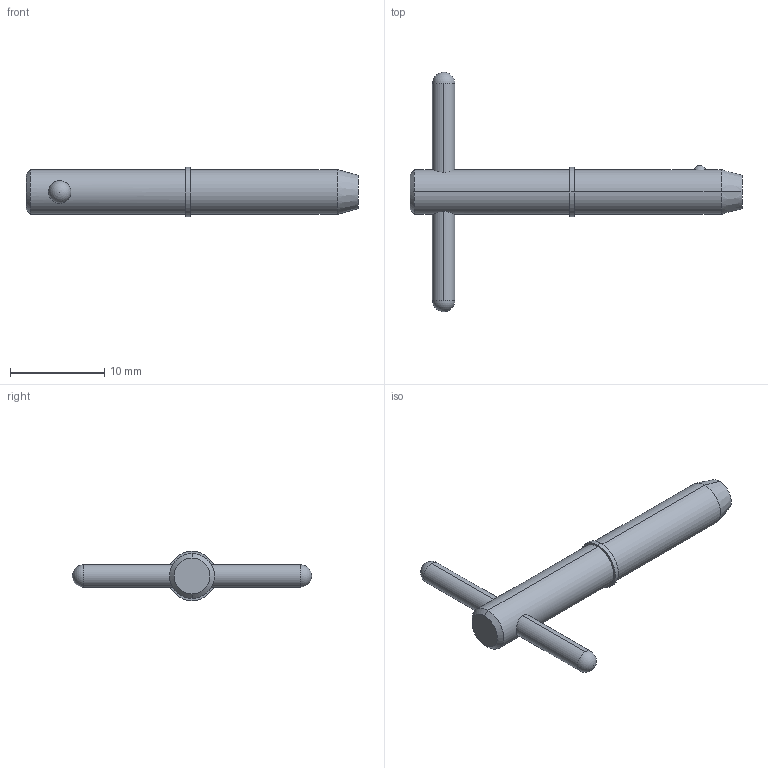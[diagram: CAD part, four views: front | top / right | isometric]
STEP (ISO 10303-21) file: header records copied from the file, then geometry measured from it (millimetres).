
FILE_DESCRIPTION (( 'STEP AP203' ), '1' );
FILE_NAME ('33018.W1805.step', '2024-11-19T17:06:38', ( '' ), ( '' ), 'SwSTEP 2.0', 'SolidWorks 2019', '' );
FILE_SCHEMA (( 'CONFIG_CONTROL_DESIGN' ));
Length unit declared in the file: millimetre
Products named in the file (3): Part1_33018.W1805; 33018.W1805; Part2_33018.W1805
Assembly tree (2 placements, depth 2):
  33018.W1805
    Part1_33018.W1805
    Part2_33018.W1805
Bounding box: 35.23 x 25.4 x 5.24 mm (x, y, z)
Volume: 707.4 mm3; surface area: 769.9 mm2
Topology: 2 solids, 2 shells, 22 faces, 47 edges, 30 vertices
Faces by surface type: cylinder 10, sphere 4, cone 4, plane 4
Entity records: 961 total; most frequent: CARTESIAN_POINT 204, DIRECTION 110, ORIENTED_EDGE 82, AXIS2_PLACEMENT_3D 48, EDGE_CURVE 41, EDGE_LOOP 27, VERTEX_POINT 26, PERSON_AND_ORGANIZATION 26
